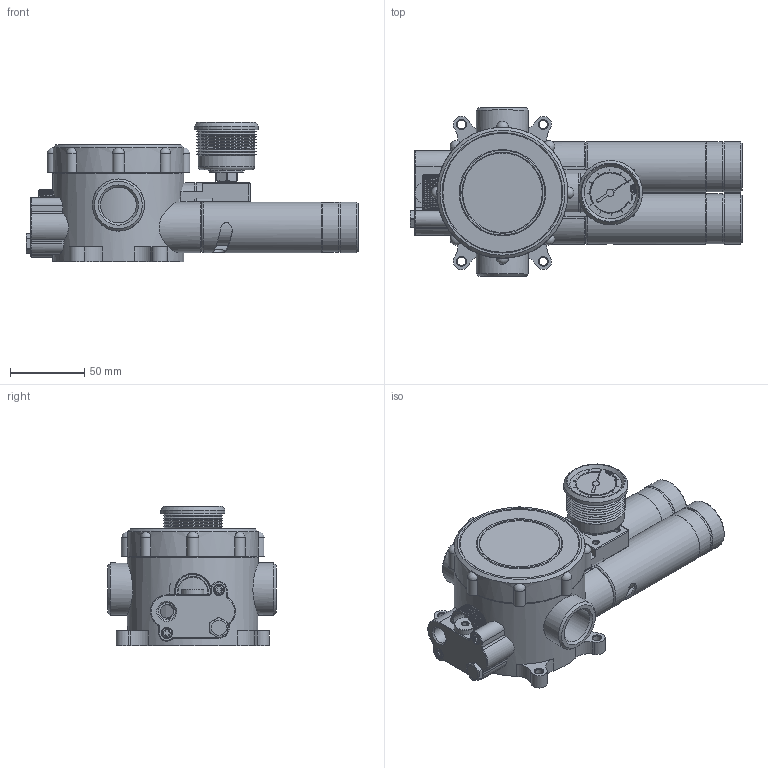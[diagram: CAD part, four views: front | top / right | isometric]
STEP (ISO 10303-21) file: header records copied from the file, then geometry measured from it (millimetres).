
FILE_DESCRIPTION( ( 'Unknown' ), '1' );
FILE_NAME( 'C:/Documents and Settings/owner/官帕 拳搁/肺流抛捞喉/磐撇 七橇/MINI+MIDI/VTC3032-2.stp', 'Unknown', ( 'Unknown' ), ( 'Unknown' ), 'XStep 1.0', 'Unknown', ' ' );
FILE_SCHEMA( ( 'automotive_design' ) );
Length unit declared in the file: millimetre
Products named in the file (6): Assem1; VTC 3022_Sub Assy; Plug18_BS; VTG-18; Plug18_New_PPS; VTTS-M25_New
Bounding box: 223.1 x 113.15 x 93.5 mm (x, y, z)
Volume: 1242572.8 mm3; surface area: 282615.6 mm2
Topology: 11 solids, 47 shells, 1752 faces, 4286 edges, 2763 vertices
Faces by surface type: plane 891, cylinder 586, cone 179, torus 50, sphere 20, bspline 14, revolution 8, extrusion 4
Full cylindrical faces by diameter (mm): 0.518 x2, 2.4 x4, 3 x26, 3.5 x12, 4.5 x4, 5 x4, 5.5 x20, 6.5 x6, 7 x6, 8.6 x2, 8.8 x4, 9 x4, 9.6 x2, 9.7 x4, 10 x3, 11.4 x2, 12.8 x2, 14.8 x2, 17 x3, 20 x9, 22.7 x3, 23 x2, 24 x7, 24.6 x2, 25 x4, 26.5 x4, 31 x3, 33.56 x3, 33.6 x3, 34 x6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
Entity records: 33125 total; most frequent: CARTESIAN_POINT 9365, DIRECTION 4058, ORIENTED_EDGE 3584, EDGE_CURVE 1792, AXIS2_PLACEMENT_3D 1519, VERTEX_POINT 1236, EDGE_LOOP 1129, VECTOR 1016
